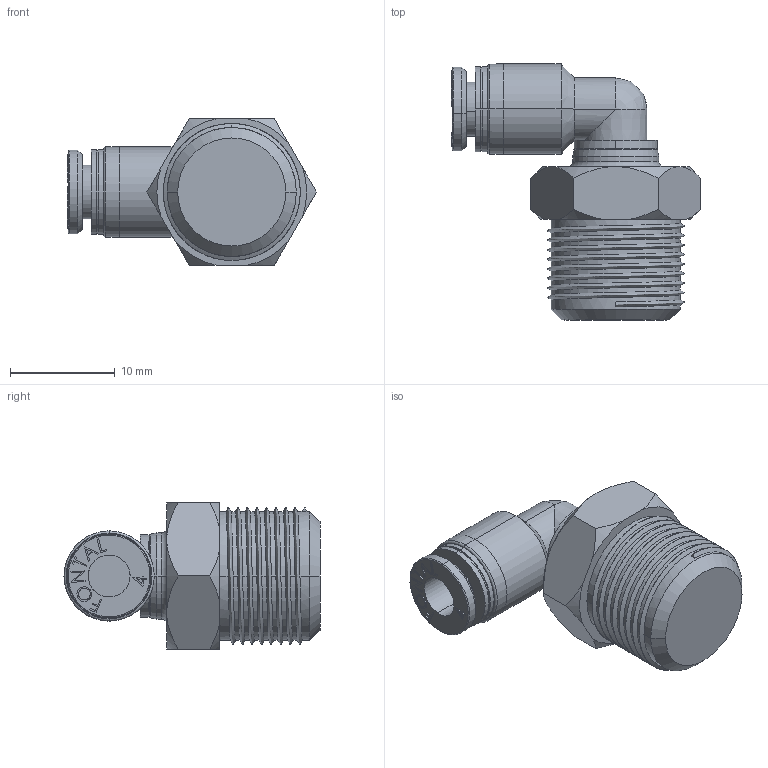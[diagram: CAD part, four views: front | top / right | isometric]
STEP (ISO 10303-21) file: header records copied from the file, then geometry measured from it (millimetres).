
FILE_DESCRIPTION (( 'STEP AP203' ), '1' );
FILE_NAME ('FPL4-02.STEP', '2016-01-14T21:05:42', ( '' ), ( '' ), 'SwSTEP 2.0', 'SolidWorks 2014', '' );
FILE_SCHEMA (( 'CONFIG_CONTROL_DESIGN' ));
Length unit declared in the file: millimetre
Products named in the file (4): FPC4-01-A; FPL4-02-A; FPL4-02; FPL4-01-A
Assembly tree (3 placements, depth 2):
  FPL4-02
    FPL4-01-A
    FPC4-01-A
    FPL4-02-A
Bounding box: 23.74 x 24.4 x 14 mm (x, y, z)
Volume: 2737.2 mm3; surface area: 1952.3 mm2
Topology: 3 solids, 3 shells, 175 faces, 431 edges, 278 vertices
Faces by surface type: plane 91, cylinder 43, cone 25, bspline 10, torus 6
Entity records: 8669 total; most frequent: CARTESIAN_POINT 4276, ORIENTED_EDGE 858, DIRECTION 773, EDGE_CURVE 429, VERTEX_POINT 278, VECTOR 259, LINE 259, AXIS2_PLACEMENT_3D 257
